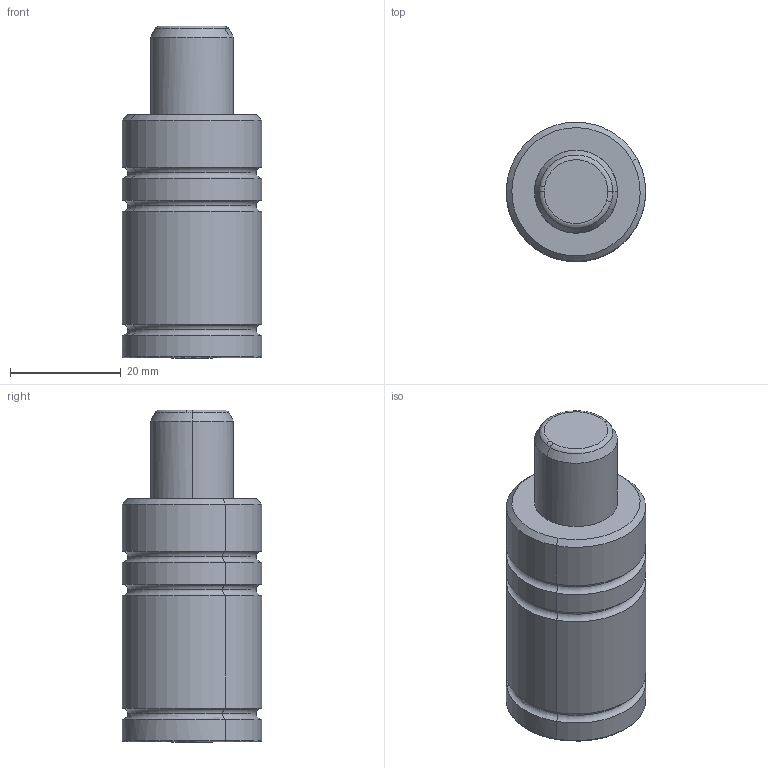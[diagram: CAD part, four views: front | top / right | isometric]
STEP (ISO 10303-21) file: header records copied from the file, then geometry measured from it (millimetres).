
FILE_DESCRIPTION(('CATIA V5 STEP Exchange'),'2;1');
FILE_NAME('W:\CATALOGO GENERAL 2018\FICHEROS CAD\001-MICRO\MICRO 25V\MICRO25Vx15.stp','2021-07-27T06:52:03+00:00',('none'),('none'),'CATIA Version 5 Release 17 (IN-10)','CATIA V5 STEP AP203','none');
FILE_SCHEMA(('CONFIG_CONTROL_DESIGN'));
Length unit declared in the file: millimetre
Products named in the file (1): MICRO25Vx15
Bounding box: 25.19 x 25.2 x 60 mm (x, y, z)
Volume: 24175.5 mm3; surface area: 5807.9 mm2
Topology: 2 solids, 2 shells, 42 faces, 83 edges, 46 vertices
Faces by surface type: torus 18, cylinder 12, cone 7, plane 5
Entity records: 1135 total; most frequent: CARTESIAN_POINT 282, ORIENTED_EDGE 166, DIRECTION 148, AXIS2_PLACEMENT_3D 94, EDGE_CURVE 83, CIRCLE 57, VERTEX_POINT 46, EDGE_LOOP 43
